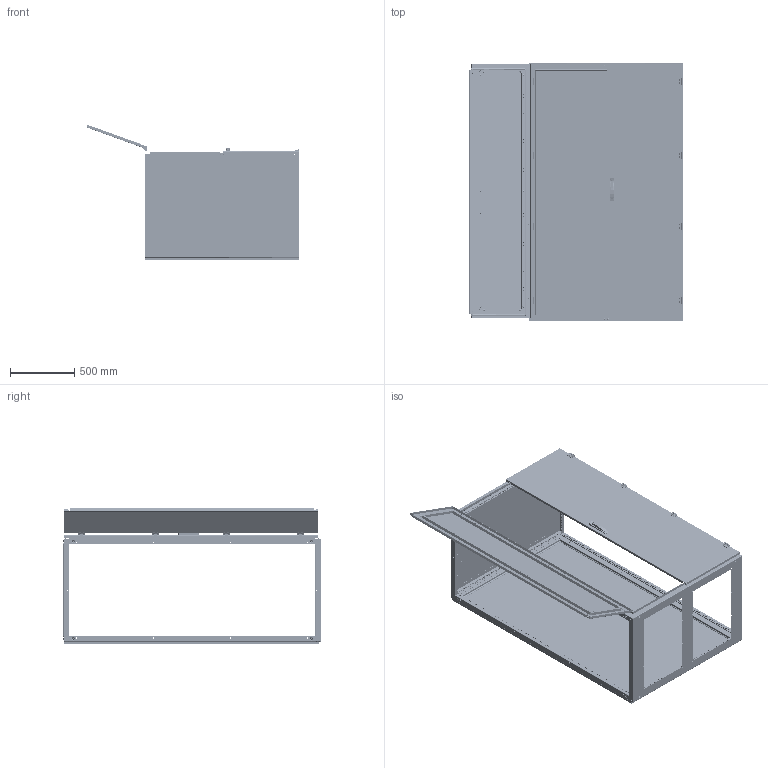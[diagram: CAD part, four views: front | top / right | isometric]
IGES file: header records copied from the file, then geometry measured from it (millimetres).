
Start section: SolidWorks IGES file using analytic representation for surfaces
Global section: file name: U:\14_RD\05_Technical_office\04_Office\Hrdinova\3D modely - IGES\Distri\QA201208.IGS; native system: SolidWorks 2011; preprocessor: SolidWorks 2011; author: adhrja3; date: 170613.121501; units: millimetre
Bounding box: 1668.78 x 2004.5 x 1062.7 mm (x, y, z)
Surface area: 19285584.5 mm2 (no closed solid volume)
Topology: 0 solids, 0 shells, 9570 faces, 163263 edges, 162927 vertices
Faces by surface type: bspline 5012, revolution 4558
